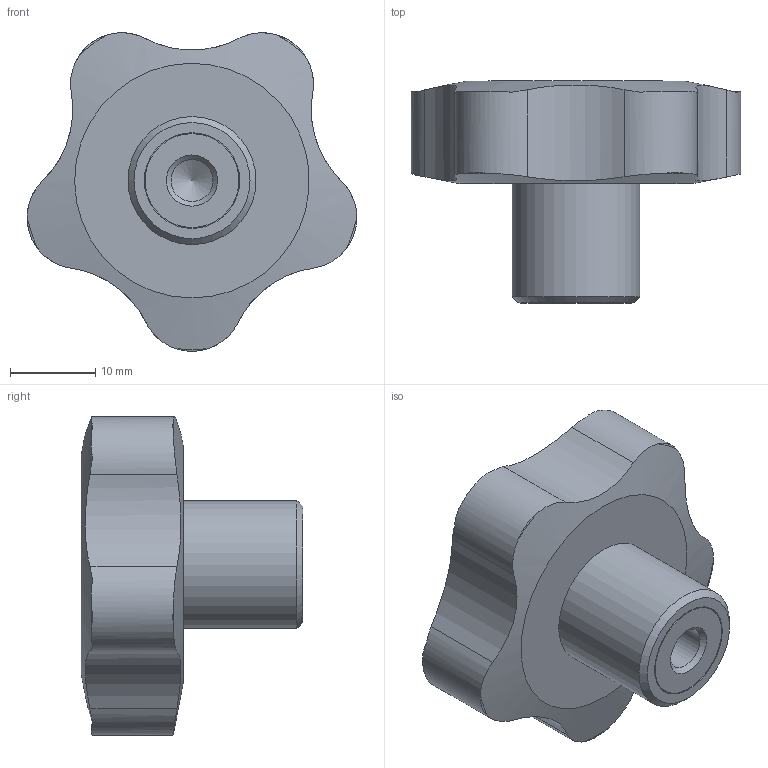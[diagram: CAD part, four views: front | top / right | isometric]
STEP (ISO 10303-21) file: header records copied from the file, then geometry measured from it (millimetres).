
FILE_DESCRIPTION( ( 'STEP AP203' ), '1' );
FILE_NAME( 'C:/Temp/Ganter_Step_05_03_2020/data/2_2/gn_5337_4/gn_5337_4_b/Star knob GN 5337.4-40-M6.stp', '2020-03-05T12:09:33', ( 'License CC BY-ND 4.0' ), ( 'CADENAS' ), ' ', 'PARTsolutions', ' ' );
FILE_SCHEMA( ( 'CONFIG_CONTROL_DESIGN' ) );
Length unit declared in the file: millimetre
Products named in the file (1): _Star knob GN 5337.4-40-M6
Bounding box: 38.63 x 26 x 37.33 mm (x, y, z)
Volume: 13189.7 mm3; surface area: 4130 mm2
Topology: 1 solids, 1 shells, 34 faces, 87 edges, 57 vertices
Faces by surface type: cylinder 14, torus 10, cone 4, plane 4, bspline 1, sphere 1
Full cylindrical faces by diameter (mm): 4.917 x1, 11 x1, 11.2 x1, 15 x1
Entity records: 1351 total; most frequent: CARTESIAN_POINT 610, ORIENTED_EDGE 144, DIRECTION 122, EDGE_CURVE 72, AXIS2_PLACEMENT_3D 56, VERTEX_POINT 54, EDGE_LOOP 46, B_SPLINE_CURVE_WITH_KNOTS 40
